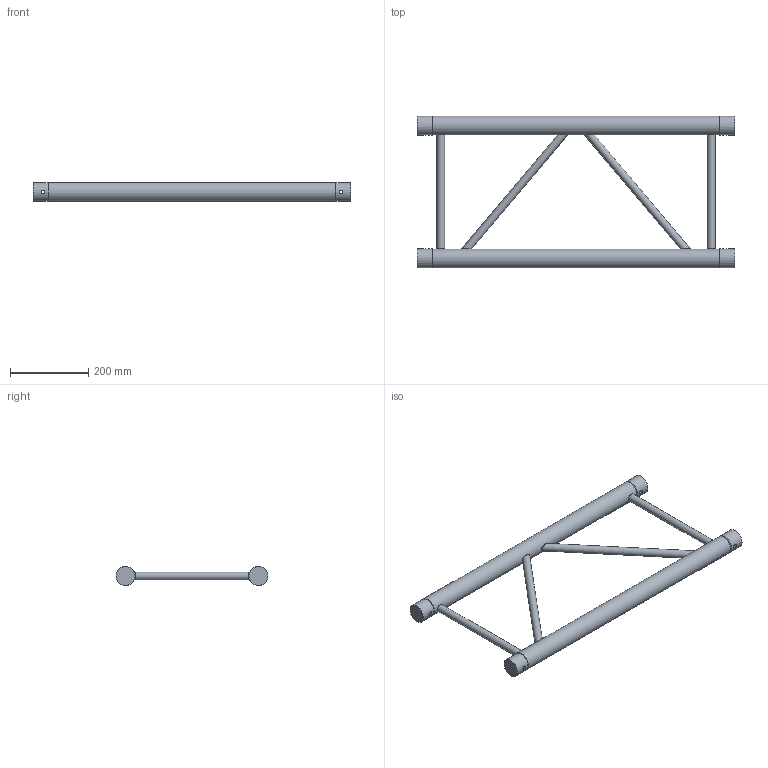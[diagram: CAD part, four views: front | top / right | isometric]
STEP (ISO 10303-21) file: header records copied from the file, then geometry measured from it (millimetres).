
FILE_DESCRIPTION(/* description */ (''),/* implementation_level */ '2;1');
FILE_NAME(/* name */ 'C:\Users\stephan\Desktop\Nieuwe map\H40L\111050150.stp',/* time_stamp */ '2016-09-12T12:50:36+02:00',/* author */ ('Stephan'),/* organization */ (''),/* preprocessor_version */ 'ST-DEVELOPER v15.6',/* originating_system */ 'Autodesk Inventor 2015',/* authorisation */ '');
FILE_SCHEMA (('AUTOMOTIVE_DESIGN { 1 0 10303 214 3 1 1 }'));
Length unit declared in the file: millimetre
Products named in the file (1): 160026981
Bounding box: 810 x 387.3 x 48.3 mm (x, y, z)
Volume: 1220860.9 mm3; surface area: 588958.2 mm2
Topology: 6 solids, 8 shells, 58 faces, 110 edges, 68 vertices
Faces by surface type: plane 32, cylinder 22, cone 4
Full cylindrical faces by diameter (mm): 10 x4, 16 x2, 20 x4, 41.8 x4, 42.3 x2, 48.3 x6
Entity records: 1756 total; most frequent: CARTESIAN_POINT 487, DIRECTION 234, ORIENTED_EDGE 184, EDGE_LOOP 112, AXIS2_PLACEMENT_3D 111, EDGE_CURVE 80, VERTEX_POINT 68, STYLED_ITEM 59
